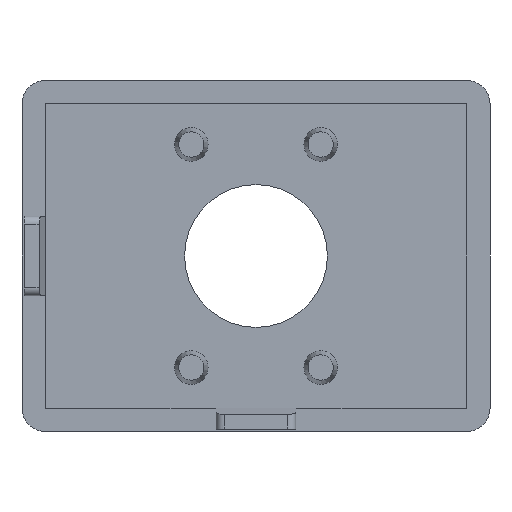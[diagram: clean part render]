
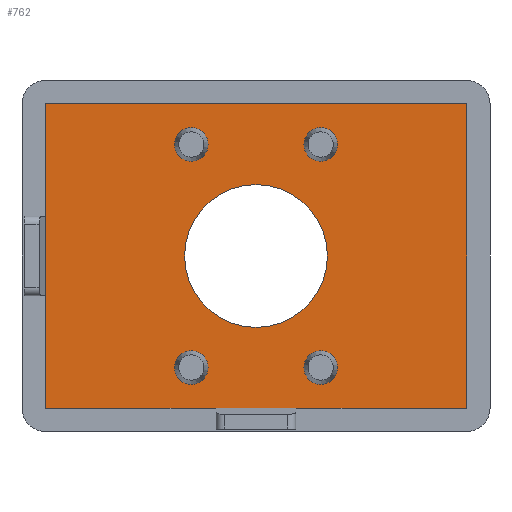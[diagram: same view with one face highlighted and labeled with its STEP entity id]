
A CAD part, front view. The second image highlights one B-rep face of the part: STEP entity #762.
In plain terms, the highlighted planar face has unit normal (0, -1, 0).
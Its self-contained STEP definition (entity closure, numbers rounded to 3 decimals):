
#49=CIRCLE('',#851,2.15);
#50=CIRCLE('',#852,2.15);
#51=CIRCLE('',#853,2.15);
#52=CIRCLE('',#854,2.15);
#53=CIRCLE('',#855,9.15);
#228=ORIENTED_EDGE('',*,*,#370,.F.);
#229=ORIENTED_EDGE('',*,*,#371,.F.);
#230=ORIENTED_EDGE('',*,*,#372,.F.);
#231=ORIENTED_EDGE('',*,*,#373,.F.);
#232=ORIENTED_EDGE('',*,*,#374,.F.);
#233=ORIENTED_EDGE('',*,*,#308,.F.);
#234=ORIENTED_EDGE('',*,*,#287,.F.);
#235=ORIENTED_EDGE('',*,*,#369,.F.);
#236=ORIENTED_EDGE('',*,*,#367,.F.);
#287=EDGE_CURVE('',#387,#388,#453,.T.);
#308=EDGE_CURVE('',#388,#402,#470,.T.);
#367=EDGE_CURVE('',#402,#435,#508,.T.);
#369=EDGE_CURVE('',#435,#387,#510,.T.);
#370=EDGE_CURVE('',#436,#436,#49,.F.);
#371=EDGE_CURVE('',#437,#437,#50,.F.);
#372=EDGE_CURVE('',#438,#438,#51,.F.);
#373=EDGE_CURVE('',#439,#439,#52,.F.);
#374=EDGE_CURVE('',#440,#440,#53,.F.);
#387=VERTEX_POINT('',#1131);
#388=VERTEX_POINT('',#1133);
#402=VERTEX_POINT('',#1174);
#435=VERTEX_POINT('',#1290);
#436=VERTEX_POINT('',#1296);
#437=VERTEX_POINT('',#1298);
#438=VERTEX_POINT('',#1300);
#439=VERTEX_POINT('',#1302);
#440=VERTEX_POINT('',#1304);
#453=LINE('',#1132,#515);
#470=LINE('',#1173,#532);
#508=LINE('',#1289,#570);
#510=LINE('',#1293,#572);
#515=VECTOR('',#889,1000.);
#532=VECTOR('',#926,1000.);
#570=VECTOR('',#1054,1000.);
#572=VECTOR('',#1058,1000.);
#607=EDGE_LOOP('',(#228));
#608=EDGE_LOOP('',(#229));
#609=EDGE_LOOP('',(#230));
#610=EDGE_LOOP('',(#231));
#611=EDGE_LOOP('',(#232));
#612=EDGE_LOOP('',(#233,#234,#235,#236));
#673=FACE_BOUND('',#607,.T.);
#674=FACE_BOUND('',#608,.T.);
#675=FACE_BOUND('',#609,.T.);
#676=FACE_BOUND('',#610,.T.);
#677=FACE_BOUND('',#611,.T.);
#678=FACE_BOUND('',#612,.T.);
#721=PLANE('',#850);
#762=ADVANCED_FACE('',(#673,#674,#675,#676,#677,#678),#721,.F.);
#850=AXIS2_PLACEMENT_3D('',#1294,#1059,#1060);
#851=AXIS2_PLACEMENT_3D('',#1295,#1061,#1062);
#852=AXIS2_PLACEMENT_3D('',#1297,#1063,#1064);
#853=AXIS2_PLACEMENT_3D('',#1299,#1065,#1066);
#854=AXIS2_PLACEMENT_3D('',#1301,#1067,#1068);
#855=AXIS2_PLACEMENT_3D('',#1303,#1069,#1070);
#889=DIRECTION('',(-1.,0.,0.));
#926=DIRECTION('',(0.,0.,1.));
#1054=DIRECTION('',(1.,0.,0.));
#1058=DIRECTION('',(0.,0.,-1.));
#1059=DIRECTION('',(0.,1.,0.));
#1060=DIRECTION('',(0.,0.,1.));
#1061=DIRECTION('',(0.,1.,0.));
#1062=DIRECTION('',(0.,0.,1.));
#1063=DIRECTION('',(0.,1.,0.));
#1064=DIRECTION('',(0.,0.,1.));
#1065=DIRECTION('',(0.,1.,0.));
#1066=DIRECTION('',(0.,0.,1.));
#1067=DIRECTION('',(0.,1.,0.));
#1068=DIRECTION('',(0.,0.,1.));
#1069=DIRECTION('',(0.,1.,0.));
#1070=DIRECTION('',(0.,0.,1.));
#1131=CARTESIAN_POINT('',(27.,-3.,-19.5));
#1132=CARTESIAN_POINT('',(27.,-3.,-19.5));
#1133=CARTESIAN_POINT('',(-27.,-3.,-19.5));
#1173=CARTESIAN_POINT('',(-27.,-3.,-19.5));
#1174=CARTESIAN_POINT('',(-27.,-3.,19.5));
#1289=CARTESIAN_POINT('',(-27.,-3.,19.5));
#1290=CARTESIAN_POINT('',(27.,-3.,19.5));
#1293=CARTESIAN_POINT('',(27.,-3.,19.5));
#1294=CARTESIAN_POINT('',(0.,-3.,0.));
#1295=CARTESIAN_POINT('',(8.3,-3.,-14.3));
#1296=CARTESIAN_POINT('',(8.3,-3.,-12.15));
#1297=CARTESIAN_POINT('',(-8.3,-3.,-14.3));
#1298=CARTESIAN_POINT('',(-8.3,-3.,-12.15));
#1299=CARTESIAN_POINT('',(8.3,-3.,14.3));
#1300=CARTESIAN_POINT('',(8.3,-3.,16.45));
#1301=CARTESIAN_POINT('',(-8.3,-3.,14.3));
#1302=CARTESIAN_POINT('',(-8.3,-3.,16.45));
#1303=CARTESIAN_POINT('',(0.,-3.,0.));
#1304=CARTESIAN_POINT('',(0.,-3.,9.15));
